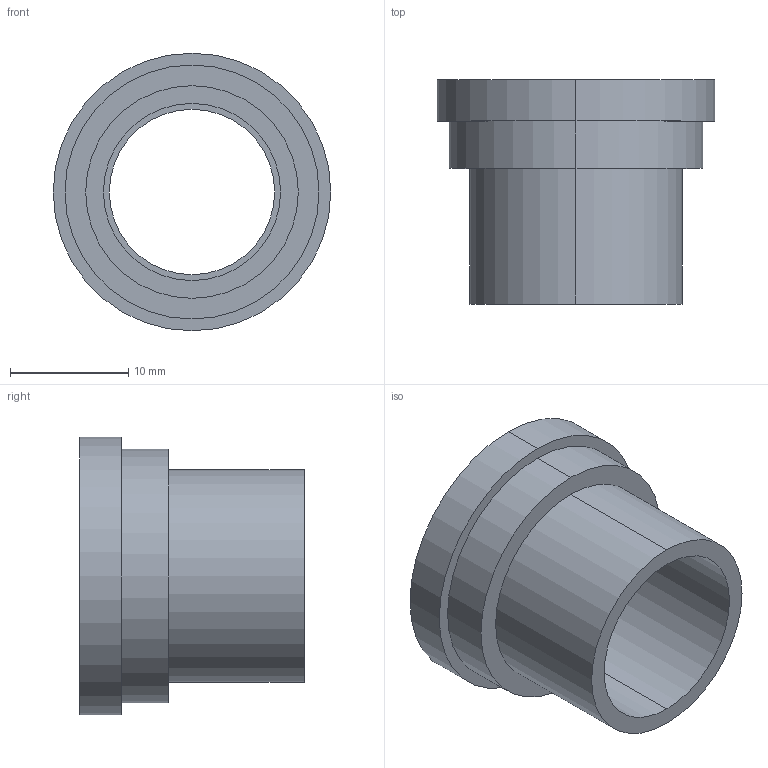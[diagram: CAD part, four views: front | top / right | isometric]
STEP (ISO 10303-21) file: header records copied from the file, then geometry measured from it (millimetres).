
FILE_DESCRIPTION((''),'2;1');
FILE_NAME('14372_15-34(1).stp','2009-11-06T09:21:07',(''),(''),'Mechanical Desktop 2009','Mechanical Desktop 2009',', , ');
FILE_SCHEMA(('CONFIG_CONTROL_DESIGN'));
Length unit declared in the file: millimetre
Products named in the file (2): 14372_15-34(1); CZﾊ姑2
Assembly tree (1 placements, depth 2):
  14372_15-34(1)
    CZﾊ姑2
Bounding box: 23.5 x 19 x 23.5 mm (x, y, z)
Volume: 2698.5 mm3; surface area: 2611.8 mm2
Topology: 1 solids, 1 shells, 15 faces, 30 edges, 20 vertices
Faces by surface type: cylinder 10, plane 5
Entity records: 517 total; most frequent: DIRECTION 84, CARTESIAN_POINT 67, ORIENTED_EDGE 60, AXIS2_PLACEMENT_3D 37, EDGE_CURVE 30, VERTEX_POINT 20, CIRCLE 20, EDGE_LOOP 20
